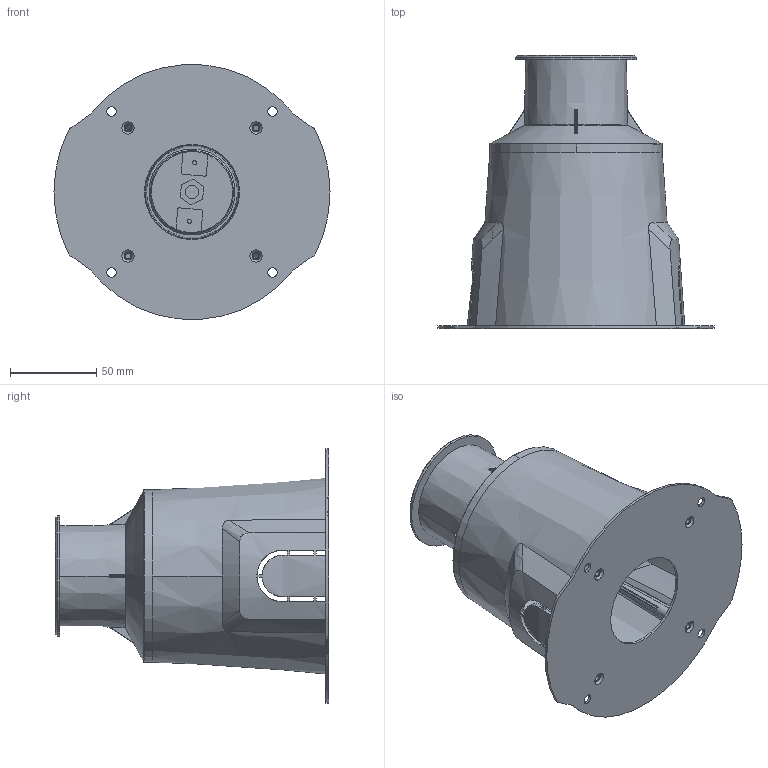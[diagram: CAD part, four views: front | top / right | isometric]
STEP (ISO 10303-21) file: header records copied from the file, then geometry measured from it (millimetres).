
FILE_DESCRIPTION((''),'2;1');
FILE_NAME('2IR-_F_TB11-_W_I__B_ANY_ASM','2025-05-06T',('Administrator'),(''),'CREO PARAMETRIC BY PTC INC, 2015200','CREO PARAMETRIC BY PTC INC, 2015200','');
FILE_SCHEMA(('CONFIG_CONTROL_DESIGN'));
Length unit declared in the file: millimetre
Products named in the file (16): R7_ANY; YATAO_ANY; 2I-1_ANY; 2I-0_ANY; MUZUHE_ANY; MIANGAI_ANY; HOUGAI_ANY; BOLI-0_ANY; 2I__ANY; 12A_1_114_ANY; 0-RING_ANY; R2IR0125__A_ANY_ASM; 2IA-B11-___P-____70-2_1_ANY; 7DB_____M_1_ANY; 2YA-_W_I___D___1_ANY; 2IR-_F_TB11-_W_I__B_ANY_ASM
Assembly tree (15 placements, depth 3):
  2IR-_F_TB11-_W_I__B_ANY_ASM
    R2IR0125__A_ANY_ASM
      R7_ANY
      YATAO_ANY
      2I-1_ANY
      2I-0_ANY
      MUZUHE_ANY
      MIANGAI_ANY
      HOUGAI_ANY
      BOLI-0_ANY
      2I__ANY
      12A_1_114_ANY
      0-RING_ANY
    2IA-B11-___P-____70-2_1_ANY
    7DB_____M_1_ANY
    2YA-_W_I___D___1_ANY
Bounding box: 160.03 x 158.24 x 147.74 mm (x, y, z)
Volume: 258868.3 mm3; surface area: 208726.1 mm2
Topology: 14 solids, 14 shells, 917 faces, 2402 edges, 1558 vertices
Faces by surface type: plane 424, cylinder 211, cone 135, bspline 118, torus 21, sphere 8
Entity records: 40505 total; most frequent: CARTESIAN_POINT 18753, ORIENTED_EDGE 4804, DIRECTION 4041, EDGE_CURVE 2402, AXIS2_PLACEMENT_3D 1584, VERTEX_POINT 1558, EDGE_LOOP 1036, FACE_OUTER_BOUND 917
